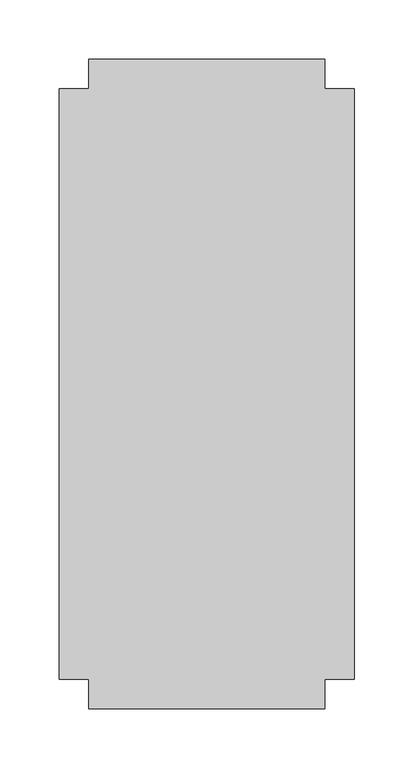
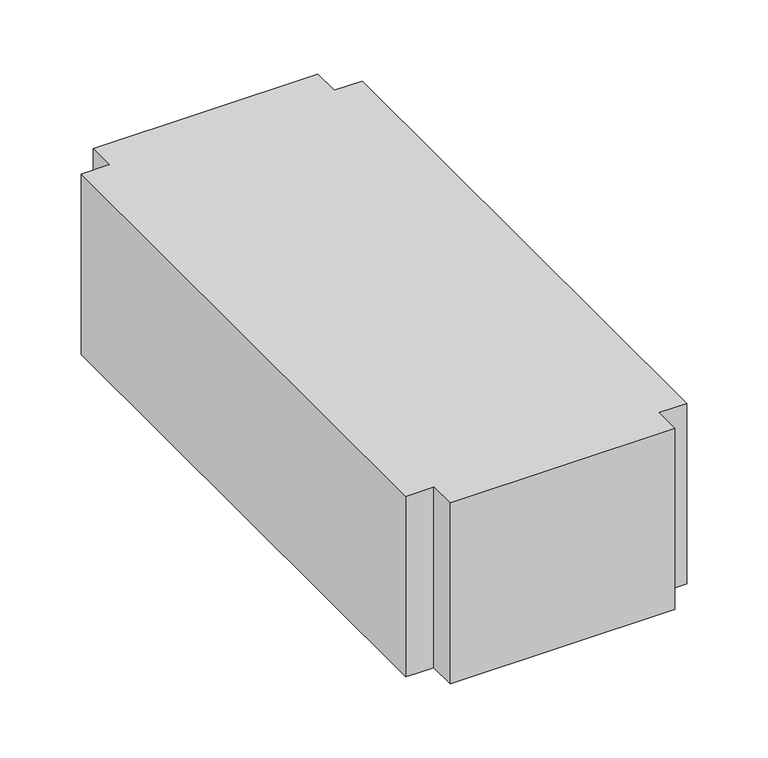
"""IFC4 building model written with IfcOpenShell, lengths in millimetres: duct fitting geometry, M_Cruz rectangular : Estándar."""

from ifc_helpers import new_model, si_unit, frame, origin, place, context, project, spatial, polyline, outline, extrude, source, transform, mapped, element, save


def duct_fitting_d591e9b9(model_context):
    return source(origin(), model_context, "Body", "SweptSolid", [
        extrude(outline(polyline([(100.0, -275.0), (-100.0, -275.0), (-100.0, -250.0), (-125.0, -250.0), (-125.0, 250.0), (-100.0, 250.0), (-100.0, 275.0), (100.0, 275.0), (100.0, 250.0), (125.0, 250.0), (125.0, -250.0), (100.0, -250.0), (100.0, -275.0)])), frame((0.0, 0.0, -85.0), z_axis=(0.0, 0.0, 1.0), x_axis=(1.0, 0.0, 0.0)), (0.0, 0.0, 1.0), 170.0),
    ])


if __name__ == "__main__":
    model = new_model("IFC4")
    model_context = context("Model", 3, world=origin())
    ifc_project = project(units=[si_unit("LENGTHUNIT", "METRE", prefix="MILLI")], contexts=[model_context])
    site = spatial("IfcSite", under=ifc_project)
    building = spatial("IfcBuilding", under=site)
    placement = place(None, origin())
    duct_fitting_shape = duct_fitting_d591e9b9(model_context)
    element("IfcDuctFitting", 1, ObjectType="M_Cruz rectangular : Estándar", at=placement, inside=building, context=model_context, shape_type="MappedRepresentation", body=[
        mapped(duct_fitting_shape, transform((0.0, 0.0, 0.0), x_axis=(1.0, 0.0, 0.0), y_axis=(0.0, 1.0, 0.0), z_axis=(0.0, 0.0, 1.0))),
    ])
    save(model, "model.ifc")
